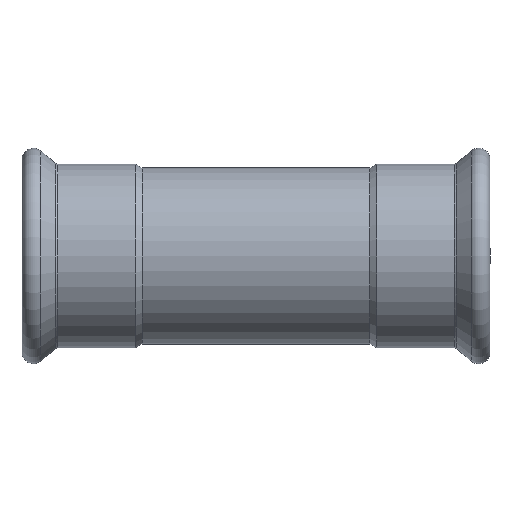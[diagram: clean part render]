
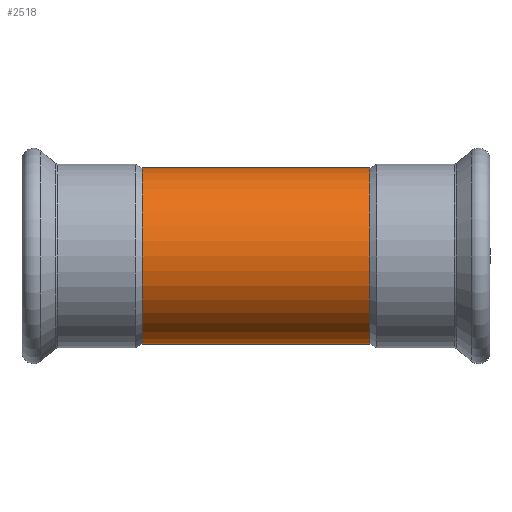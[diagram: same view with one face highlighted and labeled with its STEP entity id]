
A CAD part, front view. The second image highlights one B-rep face of the part: STEP entity #2518.
In plain terms, the highlighted cylindrical face has radius 54 mm (diameter 108 mm), a full revolution.
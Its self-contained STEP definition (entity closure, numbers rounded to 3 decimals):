
#2305=CARTESIAN_POINT('',(0.,49.235,22.179));
#2306=VERTEX_POINT('',#2305);
#2391=CARTESIAN_POINT('',(0.,49.235,22.179));
#2392=CARTESIAN_POINT('',(0.866,49.235,22.179));
#2393=CARTESIAN_POINT('',(2.603,49.278,22.084));
#2394=CARTESIAN_POINT('',(5.163,49.466,21.661));
#2395=CARTESIAN_POINT('',(7.037,49.693,21.137));
#2396=CARTESIAN_POINT('',(8.654,49.933,20.562));
#2397=CARTESIAN_POINT('',(10.223,50.2,19.907));
#2398=CARTESIAN_POINT('',(12.288,50.627,18.803));
#2399=CARTESIAN_POINT('',(14.212,51.098,17.483));
#2400=CARTESIAN_POINT('',(15.502,51.452,16.401));
#2401=CARTESIAN_POINT('',(16.721,51.804,15.257));
#2402=CARTESIAN_POINT('',(18.184,52.255,13.682));
#2403=CARTESIAN_POINT('',(19.643,52.749,11.63));
#2404=CARTESIAN_POINT('',(20.717,53.132,9.68));
#2405=CARTESIAN_POINT('',(21.464,53.408,8.041));
#2406=CARTESIAN_POINT('',(22.025,53.62,6.464));
#2407=CARTESIAN_POINT('',(22.607,53.845,4.307));
#2408=CARTESIAN_POINT('',(22.934,53.974,2.24));
#2409=CARTESIAN_POINT('',(23.022,54.009,0.006));
#2410=CARTESIAN_POINT('',(22.957,53.983,-1.664));
#2411=CARTESIAN_POINT('',(22.778,53.912,-3.191));
#2412=CARTESIAN_POINT('',(22.572,53.832,-4.286));
#2413=CARTESIAN_POINT('',(22.202,53.688,-5.913));
#2414=CARTESIAN_POINT('',(21.472,53.408,-8.182));
#2415=CARTESIAN_POINT('',(20.146,52.924,-10.814));
#2416=CARTESIAN_POINT('',(18.915,52.502,-12.655));
#2417=CARTESIAN_POINT('',(17.544,52.055,-14.405));
#2418=CARTESIAN_POINT('',(15.89,51.551,-16.122));
#2419=CARTESIAN_POINT('',(14.134,51.081,-17.525));
#2420=CARTESIAN_POINT('',(12.518,50.687,-18.632));
#2421=CARTESIAN_POINT('',(11.3,50.419,-19.342));
#2422=CARTESIAN_POINT('',(9.771,50.125,-20.091));
#2423=CARTESIAN_POINT('',(8.459,49.899,-20.646));
#2424=CARTESIAN_POINT('',(6.3,49.589,-21.381));
#2425=CARTESIAN_POINT('',(3.9,49.354,-21.915));
#2426=CARTESIAN_POINT('',(1.602,49.25,-22.146));
#2427=CARTESIAN_POINT('',(-0.135,49.228,-22.194));
#2428=CARTESIAN_POINT('',(-1.722,49.254,-22.137));
#2429=CARTESIAN_POINT('',(-3.161,49.324,-21.981));
#2430=CARTESIAN_POINT('',(-4.867,49.449,-21.699));
#2431=CARTESIAN_POINT('',(-7.101,49.683,-21.163));
#2432=CARTESIAN_POINT('',(-10.065,50.154,-20.035));
#2433=CARTESIAN_POINT('',(-12.418,50.659,-18.716));
#2434=CARTESIAN_POINT('',(-13.791,50.998,-17.756));
#2435=CARTESIAN_POINT('',(-14.686,51.229,-17.081));
#2436=CARTESIAN_POINT('',(-16.087,51.611,-15.918));
#2437=CARTESIAN_POINT('',(-17.839,52.145,-14.098));
#2438=CARTESIAN_POINT('',(-19.156,52.584,-12.315));
#2439=CARTESIAN_POINT('',(-20.534,53.062,-10.123));
#2440=CARTESIAN_POINT('',(-21.616,53.463,-7.829));
#2441=CARTESIAN_POINT('',(-22.479,53.795,-4.885));
#2442=CARTESIAN_POINT('',(-22.805,53.923,-3.055));
#2443=CARTESIAN_POINT('',(-22.968,53.987,-1.388));
#2444=CARTESIAN_POINT('',(-23.022,54.009,0.003));
#2445=CARTESIAN_POINT('',(-22.956,53.982,1.68));
#2446=CARTESIAN_POINT('',(-22.695,53.879,3.892));
#2447=CARTESIAN_POINT('',(-22.239,53.702,5.799));
#2448=CARTESIAN_POINT('',(-21.695,53.495,7.38));
#2449=CARTESIAN_POINT('',(-21.094,53.27,8.93));
#2450=CARTESIAN_POINT('',(-19.966,52.858,11.175));
#2451=CARTESIAN_POINT('',(-18.424,52.336,13.346));
#2452=CARTESIAN_POINT('',(-17.136,51.932,14.81));
#2453=CARTESIAN_POINT('',(-15.97,51.582,15.997));
#2454=CARTESIAN_POINT('',(-14.383,51.14,17.366));
#2455=CARTESIAN_POINT('',(-12.285,50.627,18.804));
#2456=CARTESIAN_POINT('',(-10.043,50.163,20.004));
#2457=CARTESIAN_POINT('',(-7.665,49.769,20.961));
#2458=CARTESIAN_POINT('',(-5.162,49.466,21.661));
#2459=CARTESIAN_POINT('',(-2.604,49.278,22.083));
#2460=CARTESIAN_POINT('',(-0.866,49.235,22.179));
#2461=CARTESIAN_POINT('',(0.,49.235,22.179));
#2462=B_SPLINE_CURVE_WITH_KNOTS('',3,(#2391,#2392,#2393,#2394,#2395,#2396,#2397,#2398,#2399,#2400,#2401,#2402,#2403,#2404,#2405,#2406,#2407,#2408,#2409,#2410,#2411,#2412,#2413,#2414,#2415,#2416,#2417,#2418,#2419,#2420,#2421,#2422,#2423,#2424,#2425,#2426,#2427,#2428,#2429,#2430,#2431,#2432,#2433,#2434,#2435,#2436,#2437,#2438,#2439,#2440,#2441,#2442,#2443,#2444,#2445,#2446,#2447,#2448,#2449,#2450,#2451,#2452,#2453,#2454,#2455,#2456,#2457,#2458,#2459,#2460,#2461),.UNSPECIFIED.,.T.,.U.,(4,1,1,1,1,1,1,1,1,1,1,1,1,1,1,1,1,1,1,1,1,1,1,1,1,1,1,1,1,1,1,1,1,1,1,1,1,1,1,1,1,1,1,1,1,1,1,1,1,1,1,1,1,1,1,1,1,1,1,1,1,1,1,1,1,1,1,1,4),(-12.805,-12.576,-12.347,-12.119,-12.061,-11.89,-11.661,-11.433,-11.261,-11.204,-10.975,-10.67,-10.518,-10.366,-10.175,-10.061,-9.756,-9.603,-9.451,-9.299,-9.184,-9.146,-8.841,-8.536,-8.346,-8.231,-7.927,-7.698,-7.622,-7.393,-7.317,-7.164,-7.012,-6.707,-6.517,-6.402,-6.25,-6.097,-6.021,-5.793,-5.488,-5.183,-5.068,-5.03,-4.878,-4.573,-4.344,-4.268,-3.862,-3.658,-3.43,-3.354,-3.201,-3.049,-2.896,-2.591,-2.515,-2.439,-2.134,-1.829,-1.715,-1.601,-1.372,-1.143,-0.915,-0.686,-0.457,-0.229,0.0),.UNSPECIFIED.);
#2463=EDGE_CURVE('',#2306,#2306,#2462,.T.);
#2488=CARTESIAN_POINT('',(0.,0.,0.0));
#2489=DIRECTION('',(1.0,0.,0.0));
#2490=DIRECTION('',(0.0,1.0,0.0));
#2491=AXIS2_PLACEMENT_3D('',#2488,#2489,#2490);
#2492=CYLINDRICAL_SURFACE('',#2491,54.);
#2493=CARTESIAN_POINT('',(-69.894,54.0,0.0));
#2494=VERTEX_POINT('',#2493);
#2495=CARTESIAN_POINT('',(-69.894,0.,0.0));
#2496=DIRECTION('',(1.0,0.0,0.0));
#2497=DIRECTION('',(0.0,1.0,0.0));
#2498=AXIS2_PLACEMENT_3D('',#2495,#2496,#2497);
#2499=CIRCLE('',#2498,54.);
#2500=EDGE_CURVE('',#2494,#2494,#2499,.T.);
#2501=ORIENTED_EDGE('',*,*,#2500,.T.);
#2502=EDGE_LOOP('',(#2501));
#2503=FACE_OUTER_BOUND('',#2502,.T.);
#2504=CARTESIAN_POINT('',(69.894,54.,0.0));
#2505=VERTEX_POINT('',#2504);
#2506=CARTESIAN_POINT('',(69.894,0.,0.0));
#2507=DIRECTION('',(1.0,0.0,0.0));
#2508=DIRECTION('',(0.0,1.0,0.0));
#2509=AXIS2_PLACEMENT_3D('',#2506,#2507,#2508);
#2510=CIRCLE('',#2509,54.);
#2511=EDGE_CURVE('',#2505,#2505,#2510,.T.);
#2512=ORIENTED_EDGE('',*,*,#2511,.F.);
#2513=EDGE_LOOP('',(#2512));
#2514=FACE_BOUND('',#2513,.T.);
#2515=ORIENTED_EDGE('',*,*,#2463,.F.);
#2516=EDGE_LOOP('',(#2515));
#2517=FACE_BOUND('',#2516,.T.);
#2518=ADVANCED_FACE('',(#2503,#2514,#2517),#2492,.T.);
